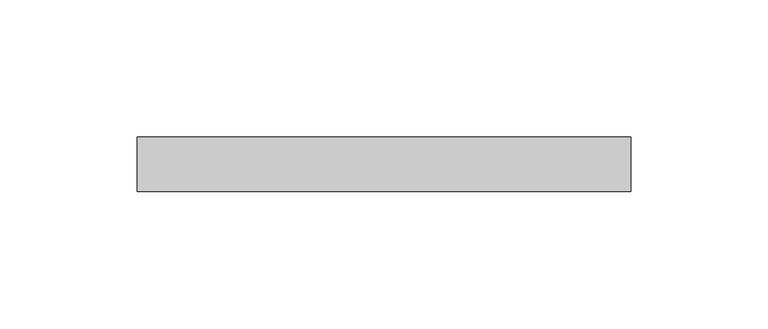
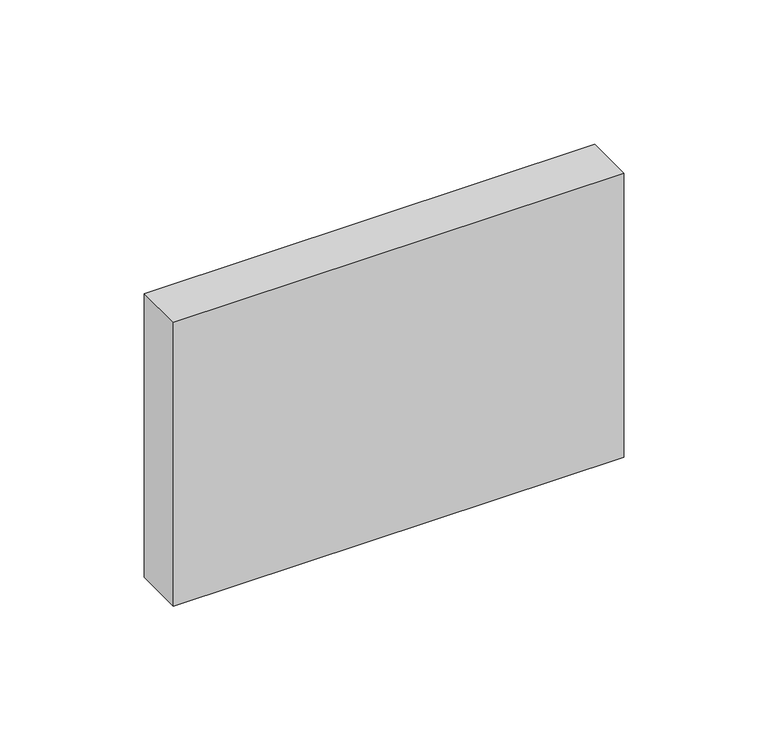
"""IFC4 building model written with IfcOpenShell, lengths in millimetres: proxy geometry, Einbruchmeldeanlage, Überfallmeldeanlage : Einbruchmeldeanlage, Überfallmeldeanlage."""

from ifc_helpers import new_model, si_unit, frame, origin, place, context, project, spatial, polyline, outline, extrude, source, transform, mapped, element, save


def electrical_fixtures_b391b782(model_context):
    return source(origin(), model_context, "Body", "SweptSolid", [
        extrude(outline(polyline([(180.0, 0.0), (0.0, 0.0), (0.0, 20.0), (180.0, 20.0), (180.0, 0.0)])), frame((0.0, 0.0, 990.0), z_axis=(0.0, 0.0, 1.0), x_axis=(1.0, 0.0, 0.0)), (0.0, 0.0, 1.0), 120.0),
    ])


if __name__ == "__main__":
    model = new_model("IFC4")
    model_context = context("Model", 3, world=origin())
    ifc_project = project(units=[si_unit("LENGTHUNIT", "METRE", prefix="MILLI")], contexts=[model_context])
    site = spatial("IfcSite", under=ifc_project)
    building = spatial("IfcBuilding", under=site)
    placement = place(None, origin())
    electrical_fixtures_shape = electrical_fixtures_b391b782(model_context)
    element("IfcBuildingElementProxy", 1, Name="Einbruchmeldeanlage, Überfallmeldeanlage : Einbruchmeldeanlage, Überfallmeldeanlage", ObjectType="Einbruchmeldeanlage, Überfallmeldeanlage : Einbruchmeldeanlage, Überfallmeldeanlage", at=placement, inside=building, context=model_context, shape_type="MappedRepresentation", body=[
        mapped(electrical_fixtures_shape, transform((0.0, 0.0, 0.0), x_axis=(1.0, 0.0, 0.0), y_axis=(0.0, 1.0, 0.0), z_axis=(0.0, 0.0, 1.0))),
    ])
    save(model, "model.ifc")
